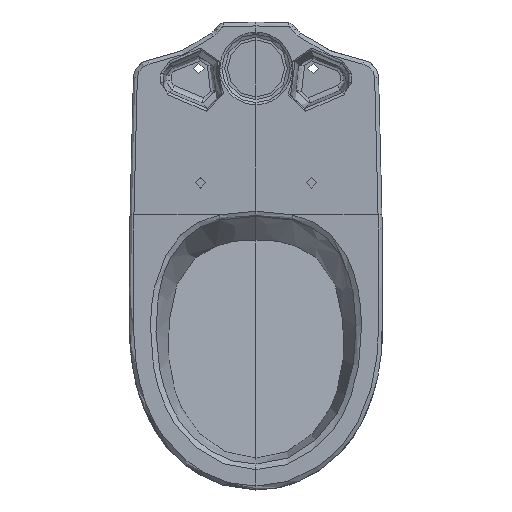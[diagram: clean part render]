
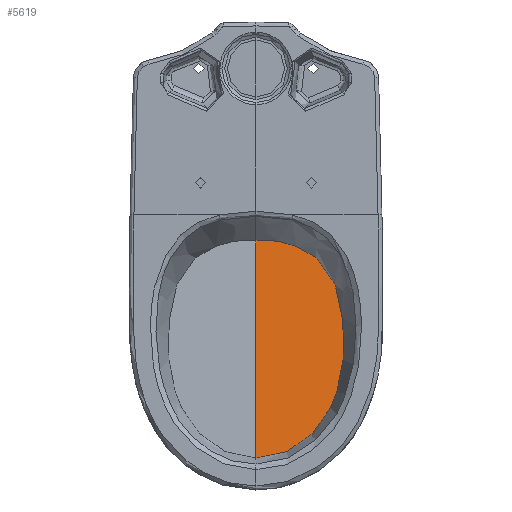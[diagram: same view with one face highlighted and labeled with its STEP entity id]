
A CAD part, top view. The second image highlights one B-rep face of the part: STEP entity #5619.
In plain terms, the highlighted planar face has unit normal (0, 0.093, 0.996).
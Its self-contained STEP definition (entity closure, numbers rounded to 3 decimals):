
#346=LINE('',#8493,#459);
#459=VECTOR('',#6413,306.471);
#579=B_SPLINE_CURVE_WITH_KNOTS('',3,(#8494,#8495,#8496,#8497,#8498,#8499,
#8500,#8501,#8502,#8503,#8504,#8505,#8506,#8507,#8508,#8509,#8510,#8511,
#8512,#8513,#8514,#8515,#8516,#8517,#8518,#8519,#8520,#8521,#8522,#8523,
#8524,#8525,#8526,#8527,#8528,#8529,#8530,#8531,#8532,#8533,#8534,#8535,
#8536,#8537,#8538,#8539),.UNSPECIFIED.,.F.,.F.,(4,1,1,1,1,1,1,1,1,1,1,1,
1,1,1,1,1,1,1,1,1,1,1,1,1,1,1,1,1,1,1,1,1,1,1,1,1,1,1,1,1,1,1,4),(0.,0.031,
0.047,0.063,0.078,0.094,0.109,0.125,0.141,0.156,0.172,
0.188,0.203,0.219,0.25,0.281,0.313,0.344,0.375,0.406,0.438,
0.469,0.5,0.531,0.563,0.594,0.625,0.656,0.688,0.719,0.75,0.781,
0.813,0.828,0.844,0.859,0.875,0.891,0.906,0.922,0.938,
0.953,0.969,1.),.UNSPECIFIED.);
#1089=FACE_OUTER_BOUND('',#1467,.T.);
#1467=EDGE_LOOP('',(#3496,#3497));
#2135=VERTEX_POINT('',#8491);
#2136=VERTEX_POINT('',#8492);
#2636=EDGE_CURVE('',#2135,#2136,#346,.T.);
#2637=EDGE_CURVE('',#2135,#2136,#579,.T.);
#3496=ORIENTED_EDGE('',*,*,#2636,.T.);
#3497=ORIENTED_EDGE('',*,*,#2637,.F.);
#5201=PLANE('',#6019);
#5619=ADVANCED_FACE('',(#1089),#5201,.T.);
#6019=AXIS2_PLACEMENT_3D('',#8490,#6411,#6412);
#6411=DIRECTION('center_axis',(0.,0.093,
0.996));
#6412=DIRECTION('ref_axis',(0.,-0.996,0.093));
#6413=DIRECTION('',(0.,-0.996,0.093));
#8490=CARTESIAN_POINT('Origin',(0.,-9.711,
285.913));
#8491=CARTESIAN_POINT('',(0.,-319.972,314.892));
#8492=CARTESIAN_POINT('',(0.,-625.115,343.392));
#8493=CARTESIAN_POINT('',(0.,-9.711,285.913));
#8494=CARTESIAN_POINT('Ctrl Pts',(0.,-319.972,
314.892));
#8495=CARTESIAN_POINT('Ctrl Pts',(4.65,-319.972,314.892));
#8496=CARTESIAN_POINT('Ctrl Pts',(11.626,-320.026,314.897));
#8497=CARTESIAN_POINT('Ctrl Pts',(20.916,-320.482,314.939));
#8498=CARTESIAN_POINT('Ctrl Pts',(27.863,-321.137,315.001));
#8499=CARTESIAN_POINT('Ctrl Pts',(34.755,-322.232,315.103));
#8500=CARTESIAN_POINT('Ctrl Pts',(41.546,-323.839,315.253));
#8501=CARTESIAN_POINT('Ctrl Pts',(48.204,-325.919,315.447));
#8502=CARTESIAN_POINT('Ctrl Pts',(54.743,-328.341,315.673));
#8503=CARTESIAN_POINT('Ctrl Pts',(61.167,-331.051,315.927));
#8504=CARTESIAN_POINT('Ctrl Pts',(67.449,-334.074,316.209));
#8505=CARTESIAN_POINT('Ctrl Pts',(73.556,-337.435,316.523));
#8506=CARTESIAN_POINT('Ctrl Pts',(79.442,-341.168,316.872));
#8507=CARTESIAN_POINT('Ctrl Pts',(85.044,-345.316,317.259));
#8508=CARTESIAN_POINT('Ctrl Pts',(91.999,-351.479,317.835));
#8509=CARTESIAN_POINT('Ctrl Pts',(99.507,-360.383,318.666));
#8510=CARTESIAN_POINT('Ctrl Pts',(106.57,-372.409,319.79));
#8511=CARTESIAN_POINT('Ctrl Pts',(111.899,-385.274,320.991));
#8512=CARTESIAN_POINT('Ctrl Pts',(115.808,-398.625,322.238));
#8513=CARTESIAN_POINT('Ctrl Pts',(118.592,-412.245,323.51));
#8514=CARTESIAN_POINT('Ctrl Pts',(120.507,-426.008,324.796));
#8515=CARTESIAN_POINT('Ctrl Pts',(121.747,-439.845,326.088));
#8516=CARTESIAN_POINT('Ctrl Pts',(122.504,-453.716,327.384));
#8517=CARTESIAN_POINT('Ctrl Pts',(122.762,-467.606,328.681));
#8518=CARTESIAN_POINT('Ctrl Pts',(122.377,-481.495,329.978));
#8519=CARTESIAN_POINT('Ctrl Pts',(121.175,-495.34,331.271));
#8520=CARTESIAN_POINT('Ctrl Pts',(119.028,-509.072,332.554));
#8521=CARTESIAN_POINT('Ctrl Pts',(115.949,-522.627,333.82));
#8522=CARTESIAN_POINT('Ctrl Pts',(112.031,-535.965,335.066));
#8523=CARTESIAN_POINT('Ctrl Pts',(107.125,-548.98,336.281));
#8524=CARTESIAN_POINT('Ctrl Pts',(101.096,-561.524,337.453));
#8525=CARTESIAN_POINT('Ctrl Pts',(93.804,-573.39,338.561));
#8526=CARTESIAN_POINT('Ctrl Pts',(85.249,-584.389,339.589));
#8527=CARTESIAN_POINT('Ctrl Pts',(77.174,-592.739,340.368));
#8528=CARTESIAN_POINT('Ctrl Pts',(70.223,-598.896,340.944));
#8529=CARTESIAN_POINT('Ctrl Pts',(64.791,-603.256,341.351));
#8530=CARTESIAN_POINT('Ctrl Pts',(59.14,-607.332,341.731));
#8531=CARTESIAN_POINT('Ctrl Pts',(53.265,-611.081,342.082));
#8532=CARTESIAN_POINT('Ctrl Pts',(47.17,-614.467,342.398));
#8533=CARTESIAN_POINT('Ctrl Pts',(40.862,-617.441,342.676));
#8534=CARTESIAN_POINT('Ctrl Pts',(34.353,-619.954,342.91));
#8535=CARTESIAN_POINT('Ctrl Pts',(27.657,-621.922,343.094));
#8536=CARTESIAN_POINT('Ctrl Pts',(20.831,-623.373,343.23));
#8537=CARTESIAN_POINT('Ctrl Pts',(11.625,-624.713,343.355));
#8538=CARTESIAN_POINT('Ctrl Pts',(4.65,-625.115,343.392));
#8539=CARTESIAN_POINT('Ctrl Pts',(0.,-625.115,
343.392));
